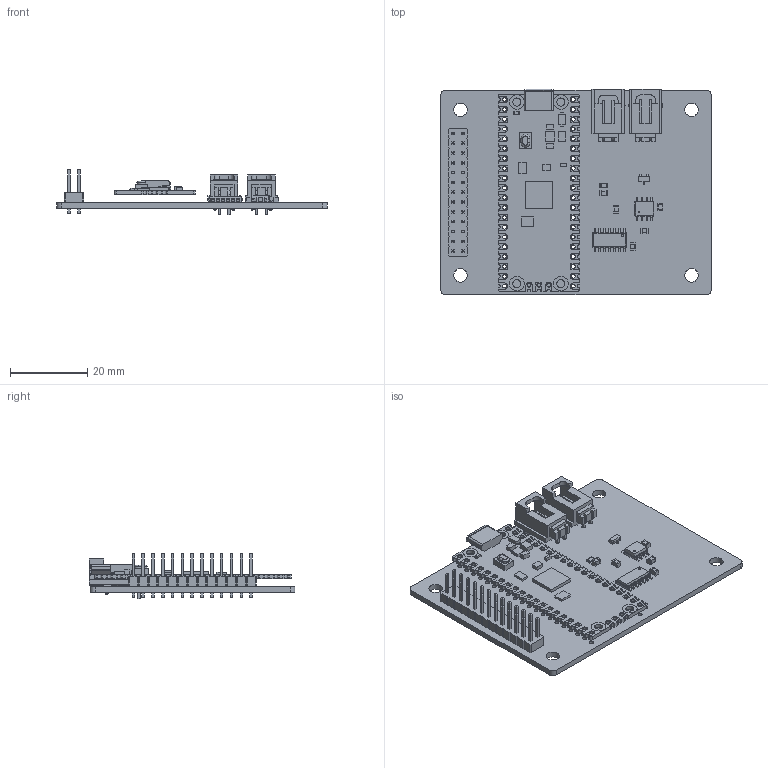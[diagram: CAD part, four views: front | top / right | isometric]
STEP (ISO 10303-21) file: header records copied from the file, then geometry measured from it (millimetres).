
FILE_DESCRIPTION(('KiCad electronic assembly'),'2;1');
FILE_NAME('Pico-CAN.step','2025-06-08T15:03:47',('Pcbnew'),('Kicad'), 'Open CASCADE STEP processor 7.6','KiCad to STEP converter','Unknown' );
FILE_SCHEMA(('AUTOMOTIVE_DESIGN { 1 0 10303 214 1 1 1 1 }'));
Length unit declared in the file: millimetre
Products named in the file (27): Pico-CAN 1; C_0805_2012Metric; 705550001; SOLID; COMPOUND; SOT-23; R_0805_2012Metric; SO-14_3.9x8.65mm_P1.27mm; Pico-CAN 1.6.1; SO-8_3.9x4.9mm_P1.27mm; Pico-CAN 1.9.1; Raspberry-Pi-Pico-2; PICO_REF_BOARD; PICO_REF_USB; PICO_REF_SWITCH; PICO_REF_MICROCONTROLLER; PICO_REF_LED; PICO_REF_COMP_1; PICO_REF_COMP_2; PICO_REF_COMP_3; PICO_REF_COMP_4; PICO_REF_COMP_5; PICO_REF_COMP_6; PICO_REF_COMP_7; PICO_REF_INDUCTOR; PinHeader_2x13_P2.54mm_Vertical; Pico-CAN_PCB
Assembly tree (32 placements, depth 3):
  Pico-CAN 1
    C_0805_2012Metric  x5
    705550001  x2
      SOLID
      COMPOUND
    SOT-23
    R_0805_2012Metric
    SO-14_3.9x8.65mm_P1.27mm
      Pico-CAN 1.6.1
    SO-8_3.9x4.9mm_P1.27mm
      Pico-CAN 1.9.1
    Raspberry-Pi-Pico-2
      PICO_REF_BOARD
      PICO_REF_USB
      PICO_REF_SWITCH
      PICO_REF_MICROCONTROLLER
      PICO_REF_LED
      PICO_REF_COMP_1
      PICO_REF_COMP_2
      PICO_REF_COMP_3  x2
      PICO_REF_COMP_4
      PICO_REF_COMP_5
      PICO_REF_COMP_6
      PICO_REF_COMP_7
      PICO_REF_INDUCTOR
    PinHeader_2x13_P2.54mm_Vertical
    Pico-CAN_PCB
Bounding box: 70 x 53.28 x 11.77 mm (x, y, z)
Volume: 7774 mm3; surface area: 13701.1 mm2
Topology: 55 solids, 55 shells, 2256 faces, 6026 edges, 3970 vertices
Faces by surface type: plane 1672, cylinder 515, bspline 51, cone 8, sphere 8, torus 2
Full cylindrical faces by diameter (mm): 0.4 x2, 0.6 x2, 1 x66, 1.067 x4, 1.85 x2, 2.2 x2, 3.4 x4, 3.5 x4
Entity records: 63040 total; most frequent: CARTESIAN_POINT 11330, ORIENTED_EDGE 10698, DIRECTION 10313, EDGE_CURVE 5349, LINE 4203, VECTOR 4203, VERTEX_POINT 3502, AXIS2_PLACEMENT_3D 3055
